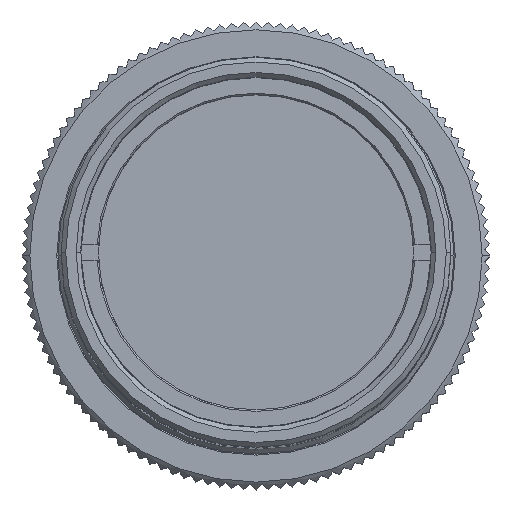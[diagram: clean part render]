
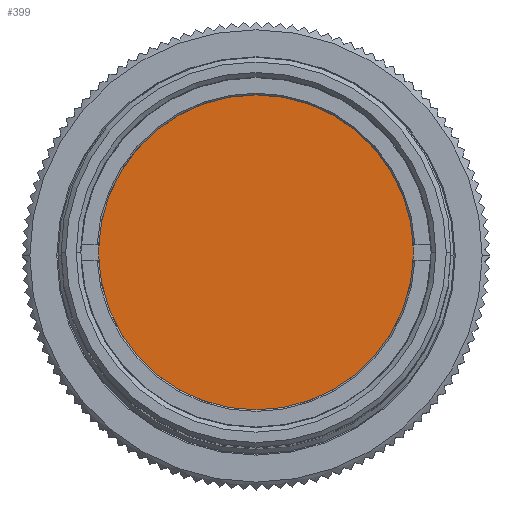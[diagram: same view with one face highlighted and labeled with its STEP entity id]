
A CAD part, top view. The second image highlights one B-rep face of the part: STEP entity #399.
In plain terms, the highlighted planar face has unit normal (0, 0, 1).
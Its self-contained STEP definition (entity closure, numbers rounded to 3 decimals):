
#359 = VERTEX_POINT ( 'NONE', #1634 ) ;
#391 = ORIENTED_EDGE ( 'NONE', *, *, #400, .T. ) ;
#398 = EDGE_LOOP ( 'NONE', ( #406, #391 ) ) ;
#399 = ADVANCED_FACE ( 'NONE', ( #1687 ), #1692, .F. ) ;
#400 = EDGE_CURVE ( 'NONE', #423, #359, #1679, .T. ) ;
#406 = ORIENTED_EDGE ( 'NONE', *, *, #417, .T. ) ;
#417 = EDGE_CURVE ( 'NONE', #359, #423, #1720, .T. ) ;
#423 = VERTEX_POINT ( 'NONE', #1700 ) ;
#1634 = CARTESIAN_POINT ( 'NONE',  ( -10.171, 0., 85.543 ) ) ;
#1650 = AXIS2_PLACEMENT_3D ( 'NONE', #1683, #1682, #1681 ) ;
#1675 = DIRECTION ( 'NONE',  ( -1., 0., 0. ) ) ;
#1676 = DIRECTION ( 'NONE',  ( 0., 0., 1. ) ) ;
#1677 = CARTESIAN_POINT ( 'NONE',  ( 0., 0., 85.543 ) ) ;
#1678 = AXIS2_PLACEMENT_3D ( 'NONE', #1677, #1676, #1675 ) ;
#1679 = CIRCLE ( 'NONE', #1678, 10.171 ) ;
#1681 = DIRECTION ( 'NONE',  ( -1., 0., 0. ) ) ;
#1682 = DIRECTION ( 'NONE',  ( 0., 0., -1. ) ) ;
#1683 = CARTESIAN_POINT ( 'NONE',  ( 0., 0., 85.543 ) ) ;
#1687 = FACE_OUTER_BOUND ( 'NONE', #398, .T. ) ;
#1692 = PLANE ( 'NONE',  #1650 ) ;
#1700 = CARTESIAN_POINT ( 'NONE',  ( 10.171, 0., 85.543 ) ) ;
#1704 = DIRECTION ( 'NONE',  ( -1., 0., 0. ) ) ;
#1705 = DIRECTION ( 'NONE',  ( 0., 0., 1. ) ) ;
#1706 = AXIS2_PLACEMENT_3D ( 'NONE', #1717, #1705, #1704 ) ;
#1717 = CARTESIAN_POINT ( 'NONE',  ( 0., 0., 85.543 ) ) ;
#1720 = CIRCLE ( 'NONE', #1706, 10.171 ) ;
